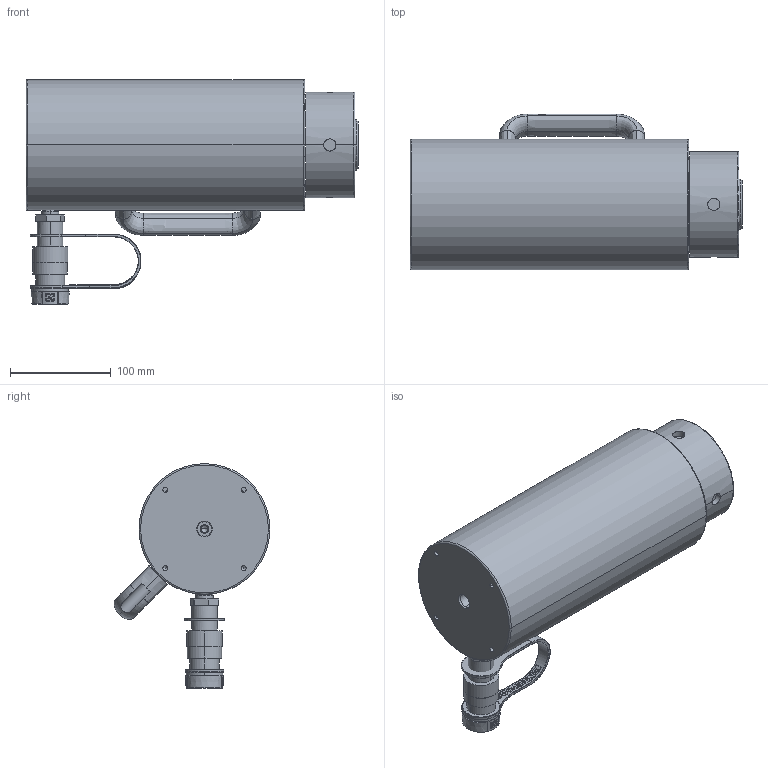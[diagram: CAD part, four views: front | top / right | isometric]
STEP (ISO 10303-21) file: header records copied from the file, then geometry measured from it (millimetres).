
FILE_DESCRIPTION((''),'2;1');
FILE_NAME('RACL504','2020-03-06T09:09:42',('mike.ward'),(''),'CREO PARAMETRIC BY PTC INC, 2018400','CREO PARAMETRIC BY PTC INC, 2018400','');
FILE_SCHEMA(('CONFIG_CONTROL_DESIGN'));
Length unit declared in the file: millimetre
Products named in the file (1): RACL504
Bounding box: 330 x 154.81 x 223.5 mm (x, y, z)
Surface area: 238571.2 mm2 (no closed solid volume)
Topology: 0 solids, 47 shells, 274 faces, 1267 edges, 1038 vertices
Faces by surface type: cylinder 84, plane 79, cone 52, torus 26, extrusion 14, bspline 11, revolution 8
Entity records: 19104 total; most frequent: CARTESIAN_POINT 9531, DIRECTION 1796, ORIENTED_EDGE 1749, EDGE_CURVE 1259, VERTEX_POINT 1038, AXIS2_PLACEMENT_3D 627, VECTOR 534, LINE 520
